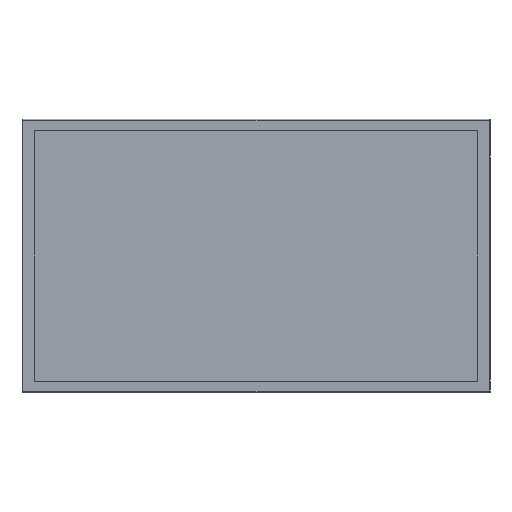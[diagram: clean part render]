
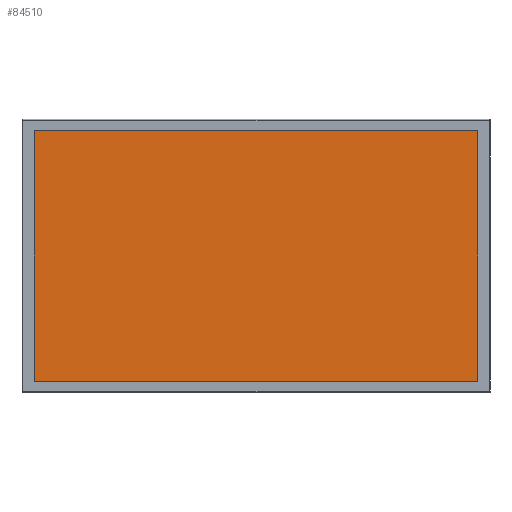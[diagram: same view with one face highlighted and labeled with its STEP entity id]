
A CAD part, front view. The second image highlights one B-rep face of the part: STEP entity #84510.
In plain terms, the highlighted planar face has unit normal (0, -1, 0).
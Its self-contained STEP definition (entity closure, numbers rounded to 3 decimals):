
#5437=FACE_OUTER_BOUND('',#10070,.T.);
#10070=EDGE_LOOP('',(#58394,#58395,#58396,#58397));
#17002=LINE('',#124902,#25034);
#17003=LINE('',#124904,#25035);
#17004=LINE('',#124906,#25036);
#17005=LINE('',#124907,#25037);
#25034=VECTOR('',#98574,1506.9);
#25035=VECTOR('',#98575,881.);
#25036=VECTOR('',#98576,1506.9);
#25037=VECTOR('',#98577,881.);
#37268=VERTEX_POINT('',#124900);
#37269=VERTEX_POINT('',#124901);
#37270=VERTEX_POINT('',#124903);
#37271=VERTEX_POINT('',#124905);
#45750=EDGE_CURVE('',#37268,#37269,#17002,.T.);
#45751=EDGE_CURVE('',#37270,#37268,#17003,.T.);
#45752=EDGE_CURVE('',#37270,#37271,#17004,.T.);
#45753=EDGE_CURVE('',#37271,#37269,#17005,.T.);
#58394=ORIENTED_EDGE('',*,*,#45750,.F.);
#58395=ORIENTED_EDGE('',*,*,#45751,.F.);
#58396=ORIENTED_EDGE('',*,*,#45752,.T.);
#58397=ORIENTED_EDGE('',*,*,#45753,.T.);
#82100=PLANE('',#89228);
#84510=ADVANCED_FACE('',(#5437),#82100,.T.);
#89228=AXIS2_PLACEMENT_3D('',#124899,#98572,#98573);
#98572=DIRECTION('center_axis',(0.,-1.,0.));
#98573=DIRECTION('ref_axis',(1.,0.,0.));
#98574=DIRECTION('',(1.,0.,0.));
#98575=DIRECTION('',(0.,0.,1.));
#98576=DIRECTION('',(1.,0.,0.));
#98577=DIRECTION('',(0.,0.,1.));
#124899=CARTESIAN_POINT('Origin',(-110.8,-43.2,-68.));
#124900=CARTESIAN_POINT('',(-110.8,-43.2,813.));
#124901=CARTESIAN_POINT('',(1396.1,-43.2,813.));
#124902=CARTESIAN_POINT('',(265.925,-43.2,813.));
#124903=CARTESIAN_POINT('',(-110.8,-43.2,-68.));
#124904=CARTESIAN_POINT('',(-110.8,-43.2,-68.));
#124905=CARTESIAN_POINT('',(1396.1,-43.2,-68.));
#124906=CARTESIAN_POINT('',(-110.8,-43.2,-68.));
#124907=CARTESIAN_POINT('',(1396.1,-43.2,-68.));
